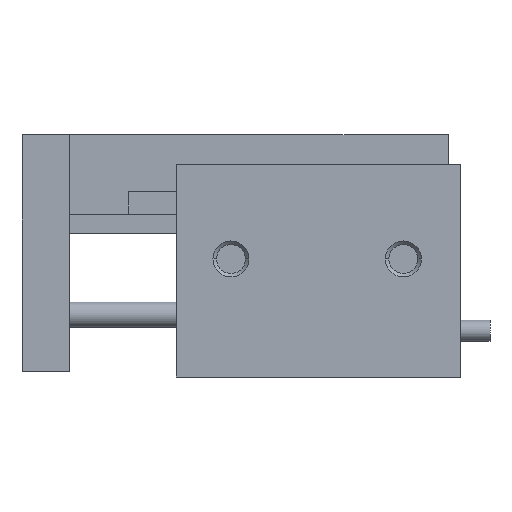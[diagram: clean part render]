
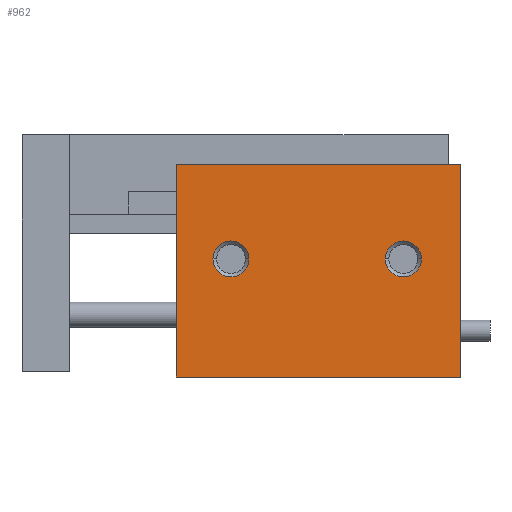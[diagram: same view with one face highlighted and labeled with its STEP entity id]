
A CAD part, top view. The second image highlights one B-rep face of the part: STEP entity #962.
In plain terms, the highlighted planar face has unit normal (0, 0, 1) as drawn and (0, 0, -1) by its records, which use the part's own axes.
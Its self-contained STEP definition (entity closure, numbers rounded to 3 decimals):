
#20 = EDGE_CURVE ( 'NONE', #7273, #2679, #5955, .T. ) ;
#97 = LINE ( 'NONE', #1463, #6815 ) ;
#108 = CARTESIAN_POINT ( 'NONE',  ( 33.147, 1.562, -10.922 ) ) ;
#301 = VECTOR ( 'NONE', #6387, 1000. ) ;
#353 = DIRECTION ( 'NONE',  ( 1., 0., 0. ) ) ;
#580 = CIRCLE ( 'NONE', #3925, 2.413 ) ;
#615 = EDGE_LOOP ( 'NONE', ( #713, #1317 ) ) ;
#713 = ORIENTED_EDGE ( 'NONE', *, *, #4340, .T. ) ;
#820 = CARTESIAN_POINT ( 'NONE',  ( 5.207, 1.562, -10.922 ) ) ;
#909 = EDGE_LOOP ( 'NONE', ( #2557, #1982, #4974, #6749 ) ) ;
#962 = ADVANCED_FACE ( 'NONE', ( #7780, #1245, #7981 ), #1013, .F. ) ;
#1013 = PLANE ( 'NONE',  #2496 ) ;
#1148 = VECTOR ( 'NONE', #7416, 1000. ) ;
#1227 = DIRECTION ( 'NONE',  ( 0., 0., 1. ) ) ;
#1245 = FACE_OUTER_BOUND ( 'NONE', #909, .T. ) ;
#1317 = ORIENTED_EDGE ( 'NONE', *, *, #3133, .T. ) ;
#1463 = CARTESIAN_POINT ( 'NONE',  ( 38.1, 14.262, -10.922 ) ) ;
#1607 = DIRECTION ( 'NONE',  ( 0., 0., 1. ) ) ;
#1653 = DIRECTION ( 'NONE',  ( 1., 0., 0. ) ) ;
#1812 = CIRCLE ( 'NONE', #6927, 2.413 ) ;
#1982 = ORIENTED_EDGE ( 'NONE', *, *, #7808, .F. ) ;
#2052 = VERTEX_POINT ( 'NONE', #820 ) ;
#2061 = CARTESIAN_POINT ( 'NONE',  ( 0., -14.262, -10.922 ) ) ;
#2130 = EDGE_LOOP ( 'NONE', ( #3707, #8112 ) ) ;
#2234 = CARTESIAN_POINT ( 'NONE',  ( 38.1, 14.262, -10.922 ) ) ;
#2411 = VERTEX_POINT ( 'NONE', #4351 ) ;
#2459 = VERTEX_POINT ( 'NONE', #7678 ) ;
#2490 = CARTESIAN_POINT ( 'NONE',  ( 38.1, -14.262, -10.922 ) ) ;
#2496 = AXIS2_PLACEMENT_3D ( 'NONE', #4246, #5555, #1653 ) ;
#2557 = ORIENTED_EDGE ( 'NONE', *, *, #8372, .T. ) ;
#2679 = VERTEX_POINT ( 'NONE', #7878 ) ;
#2712 = LINE ( 'NONE', #2061, #5969 ) ;
#2763 = AXIS2_PLACEMENT_3D ( 'NONE', #7341, #3435, #8009 ) ;
#3128 = EDGE_CURVE ( 'NONE', #2411, #5369, #3550, .T. ) ;
#3133 = EDGE_CURVE ( 'NONE', #6189, #2052, #1812, .T. ) ;
#3435 = DIRECTION ( 'NONE',  ( 0., 0., 1. ) ) ;
#3550 = LINE ( 'NONE', #2490, #301 ) ;
#3707 = ORIENTED_EDGE ( 'NONE', *, *, #8428, .T. ) ;
#3925 = AXIS2_PLACEMENT_3D ( 'NONE', #5510, #1607, #6160 ) ;
#4220 = CARTESIAN_POINT ( 'NONE',  ( 10.033, 1.562, -10.922 ) ) ;
#4244 = DIRECTION ( 'NONE',  ( 0., 0., 1. ) ) ;
#4246 = CARTESIAN_POINT ( 'NONE',  ( 38.1, -14.262, -10.922 ) ) ;
#4340 = EDGE_CURVE ( 'NONE', #2052, #6189, #580, .T. ) ;
#4351 = CARTESIAN_POINT ( 'NONE',  ( 38.1, -14.262, -10.922 ) ) ;
#4712 = CARTESIAN_POINT ( 'NONE',  ( 0., -14.262, -10.922 ) ) ;
#4890 = AXIS2_PLACEMENT_3D ( 'NONE', #8158, #4244, #353 ) ;
#4974 = ORIENTED_EDGE ( 'NONE', *, *, #6139, .F. ) ;
#5109 = CARTESIAN_POINT ( 'NONE',  ( 7.62, 1.562, -10.922 ) ) ;
#5356 = DIRECTION ( 'NONE',  ( -1., 0., 0. ) ) ;
#5369 = VERTEX_POINT ( 'NONE', #4712 ) ;
#5490 = VERTEX_POINT ( 'NONE', #2234 ) ;
#5510 = CARTESIAN_POINT ( 'NONE',  ( 7.62, 1.562, -10.922 ) ) ;
#5555 = DIRECTION ( 'NONE',  ( 0., 0., 1. ) ) ;
#5569 = CIRCLE ( 'NONE', #2763, 2.413 ) ;
#5768 = DIRECTION ( 'NONE',  ( 1., 0., 0. ) ) ;
#5955 = CIRCLE ( 'NONE', #4890, 2.413 ) ;
#5969 = VECTOR ( 'NONE', #7927, 1000. ) ;
#6139 = EDGE_CURVE ( 'NONE', #2411, #5490, #6324, .T. ) ;
#6160 = DIRECTION ( 'NONE',  ( 1., 0., 0. ) ) ;
#6189 = VERTEX_POINT ( 'NONE', #4220 ) ;
#6324 = LINE ( 'NONE', #6750, #1148 ) ;
#6387 = DIRECTION ( 'NONE',  ( -1., 0., 0. ) ) ;
#6749 = ORIENTED_EDGE ( 'NONE', *, *, #3128, .T. ) ;
#6750 = CARTESIAN_POINT ( 'NONE',  ( 38.1, -14.262, -10.922 ) ) ;
#6815 = VECTOR ( 'NONE', #5356, 1000. ) ;
#6927 = AXIS2_PLACEMENT_3D ( 'NONE', #5109, #1227, #5768 ) ;
#7273 = VERTEX_POINT ( 'NONE', #108 ) ;
#7341 = CARTESIAN_POINT ( 'NONE',  ( 30.734, 1.562, -10.922 ) ) ;
#7416 = DIRECTION ( 'NONE',  ( 0., 1., 0. ) ) ;
#7678 = CARTESIAN_POINT ( 'NONE',  ( 0., 14.262, -10.922 ) ) ;
#7780 = FACE_BOUND ( 'NONE', #615, .T. ) ;
#7808 = EDGE_CURVE ( 'NONE', #5490, #2459, #97, .T. ) ;
#7878 = CARTESIAN_POINT ( 'NONE',  ( 28.321, 1.562, -10.922 ) ) ;
#7927 = DIRECTION ( 'NONE',  ( 0., 1., 0. ) ) ;
#7981 = FACE_BOUND ( 'NONE', #2130, .T. ) ;
#8009 = DIRECTION ( 'NONE',  ( 1., 0., 0. ) ) ;
#8112 = ORIENTED_EDGE ( 'NONE', *, *, #20, .T. ) ;
#8158 = CARTESIAN_POINT ( 'NONE',  ( 30.734, 1.562, -10.922 ) ) ;
#8372 = EDGE_CURVE ( 'NONE', #5369, #2459, #2712, .T. ) ;
#8428 = EDGE_CURVE ( 'NONE', #2679, #7273, #5569, .T. ) ;
